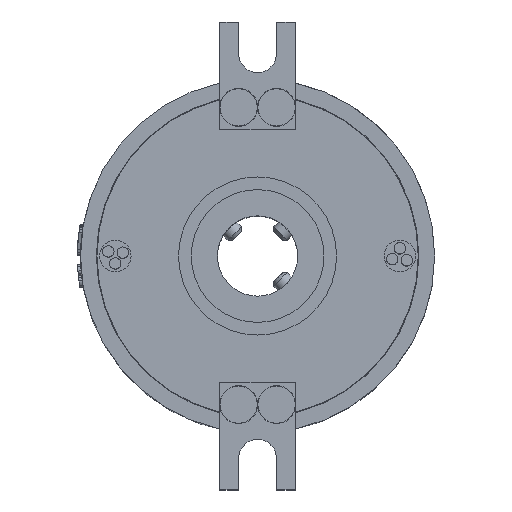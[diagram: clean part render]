
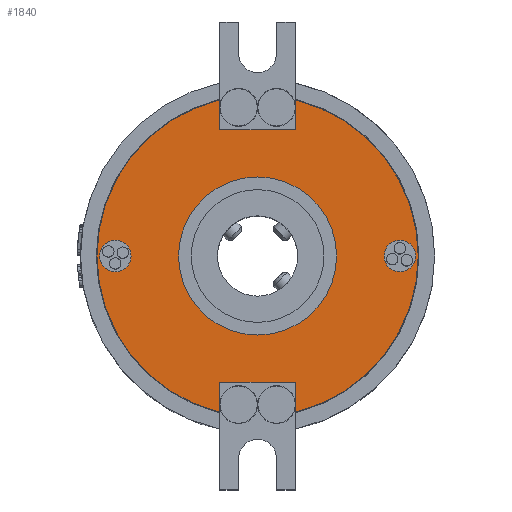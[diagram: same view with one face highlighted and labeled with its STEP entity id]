
A CAD part, top view. The second image highlights one B-rep face of the part: STEP entity #1840.
In plain terms, the highlighted planar face has unit normal (0, 0, 1).
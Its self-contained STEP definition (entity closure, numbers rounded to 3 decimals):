
#130=FACE_BOUND('',#4853,.T.);
#131=FACE_BOUND('',#4854,.T.);
#132=FACE_BOUND('',#4855,.T.);
#133=FACE_BOUND('',#4856,.T.);
#459=CIRCLE('',#16711,25.4);
#460=CIRCLE('',#16712,25.4);
#461=CIRCLE('',#16713,12.5);
#462=CIRCLE('',#16714,2.5);
#463=CIRCLE('',#16715,2.5);
#859=PLANE('',#16716);
#1105=LINE('',#31914,#3147);
#1106=LINE('',#31919,#3148);
#1107=LINE('',#31921,#3149);
#1108=LINE('',#31923,#3150);
#1109=LINE('',#31927,#3151);
#1110=LINE('',#31929,#3152);
#1840=ADVANCED_FACE('',(#130,#131,#132,#133),#859,.T.);
#3147=VECTOR('',#18279,1.);
#3148=VECTOR('',#18282,1.);
#3149=VECTOR('',#18283,1.);
#3150=VECTOR('',#18284,1.);
#3151=VECTOR('',#18287,1.);
#3152=VECTOR('',#18288,1.);
#4853=EDGE_LOOP('',(#8150,#8151,#8152,#8153,#8154,#8155,#8156,#8157));
#4854=EDGE_LOOP('',(#8158));
#4855=EDGE_LOOP('',(#8159));
#4856=EDGE_LOOP('',(#8160));
#8150=ORIENTED_EDGE('',*,*,#13411,.F.);
#8151=ORIENTED_EDGE('',*,*,#13412,.F.);
#8152=ORIENTED_EDGE('',*,*,#13413,.F.);
#8153=ORIENTED_EDGE('',*,*,#13414,.F.);
#8154=ORIENTED_EDGE('',*,*,#13415,.F.);
#8155=ORIENTED_EDGE('',*,*,#13416,.F.);
#8156=ORIENTED_EDGE('',*,*,#13417,.F.);
#8157=ORIENTED_EDGE('',*,*,#13418,.F.);
#8158=ORIENTED_EDGE('',*,*,#13419,.F.);
#8159=ORIENTED_EDGE('',*,*,#13420,.T.);
#8160=ORIENTED_EDGE('',*,*,#13421,.T.);
#11220=VERTEX_POINT('',#31915);
#11221=VERTEX_POINT('',#31916);
#11222=VERTEX_POINT('',#31918);
#11223=VERTEX_POINT('',#31920);
#11224=VERTEX_POINT('',#31922);
#11225=VERTEX_POINT('',#31924);
#11226=VERTEX_POINT('',#31926);
#11227=VERTEX_POINT('',#31928);
#11228=VERTEX_POINT('',#31931);
#11229=VERTEX_POINT('',#31933);
#11230=VERTEX_POINT('',#31935);
#13411=EDGE_CURVE('',#11220,#11221,#1105,.T.);
#13412=EDGE_CURVE('',#11222,#11220,#459,.T.);
#13413=EDGE_CURVE('',#11223,#11222,#1106,.T.);
#13414=EDGE_CURVE('',#11224,#11223,#1107,.T.);
#13415=EDGE_CURVE('',#11225,#11224,#1108,.T.);
#13416=EDGE_CURVE('',#11226,#11225,#460,.T.);
#13417=EDGE_CURVE('',#11227,#11226,#1109,.T.);
#13418=EDGE_CURVE('',#11221,#11227,#1110,.T.);
#13419=EDGE_CURVE('',#11228,#11228,#461,.T.);
#13420=EDGE_CURVE('',#11229,#11229,#462,.T.);
#13421=EDGE_CURVE('',#11230,#11230,#463,.T.);
#16711=AXIS2_PLACEMENT_3D('',#31917,#18280,#18281);
#16712=AXIS2_PLACEMENT_3D('',#31925,#18285,#18286);
#16713=AXIS2_PLACEMENT_3D('',#31930,#18289,#18290);
#16714=AXIS2_PLACEMENT_3D('',#31932,#18291,#18292);
#16715=AXIS2_PLACEMENT_3D('',#31934,#18293,#18294);
#16716=AXIS2_PLACEMENT_3D('',#31936,#18295,#18296);
#18279=DIRECTION('',(0.,1.,0.));
#18280=DIRECTION('',(0.,0.,-1.));
#18281=DIRECTION('',(1.,0.,0.));
#18282=DIRECTION('',(0.,1.,0.));
#18283=DIRECTION('',(1.,0.,0.));
#18284=DIRECTION('',(0.,-1.,0.));
#18285=DIRECTION('',(0.,0.,-1.));
#18286=DIRECTION('',(1.,0.,0.));
#18287=DIRECTION('',(0.,-1.,0.));
#18288=DIRECTION('',(-1.,0.,0.));
#18289=DIRECTION('',(0.,0.,1.));
#18290=DIRECTION('',(1.,0.,0.));
#18291=DIRECTION('',(0.,0.,-1.));
#18292=DIRECTION('',(1.,0.,0.));
#18293=DIRECTION('',(0.,0.,-1.));
#18294=DIRECTION('',(1.,0.,0.));
#18295=DIRECTION('',(0.,0.,1.));
#18296=DIRECTION('',(1.,0.,0.));
#31914=CARTESIAN_POINT('',(6.,-37.,46.6));
#31915=CARTESIAN_POINT('',(6.,-24.681,46.6));
#31916=CARTESIAN_POINT('',(6.,-20.,46.6));
#31917=CARTESIAN_POINT('',(0.,0.,46.6));
#31918=CARTESIAN_POINT('',(6.,24.681,46.6));
#31919=CARTESIAN_POINT('',(6.,20.,46.6));
#31920=CARTESIAN_POINT('',(6.,20.,46.6));
#31921=CARTESIAN_POINT('',(0.,20.,46.6));
#31922=CARTESIAN_POINT('',(-6.,20.,46.6));
#31923=CARTESIAN_POINT('',(-6.,37.,46.6));
#31924=CARTESIAN_POINT('',(-6.,24.681,46.6));
#31925=CARTESIAN_POINT('',(0.,0.,46.6));
#31926=CARTESIAN_POINT('',(-6.,-24.681,46.6));
#31927=CARTESIAN_POINT('',(-6.,-20.,46.6));
#31928=CARTESIAN_POINT('',(-6.,-20.,46.6));
#31929=CARTESIAN_POINT('',(0.,-20.,46.6));
#31930=CARTESIAN_POINT('',(0.,0.,46.6));
#31931=CARTESIAN_POINT('',(12.5,0.,46.6));
#31932=CARTESIAN_POINT('',(22.5,0.,46.6));
#31933=CARTESIAN_POINT('',(25.,0.,46.6));
#31934=CARTESIAN_POINT('',(-22.5,0.,46.6));
#31935=CARTESIAN_POINT('',(-20.,0.,46.6));
#31936=CARTESIAN_POINT('',(0.,0.,46.6));
